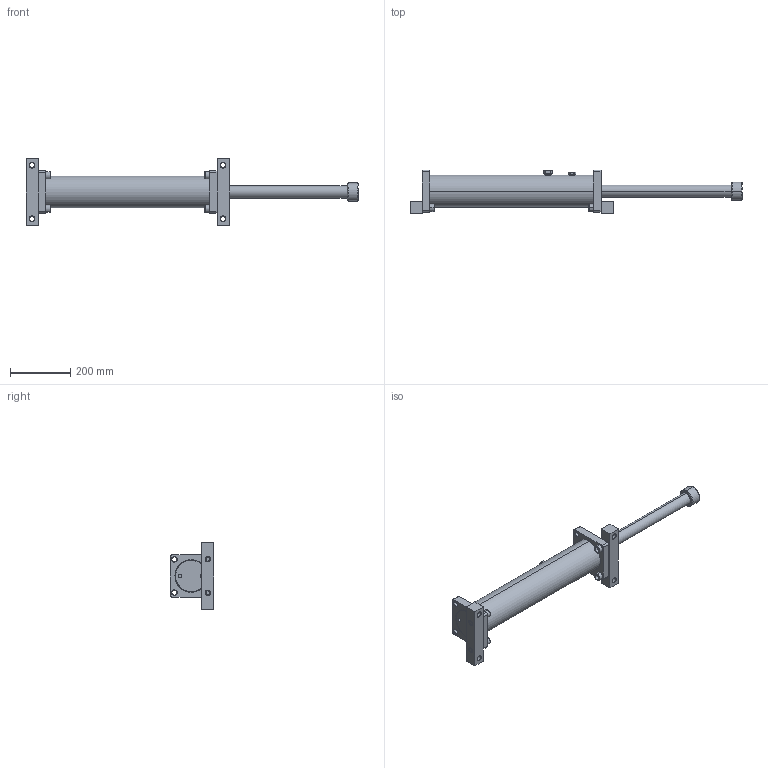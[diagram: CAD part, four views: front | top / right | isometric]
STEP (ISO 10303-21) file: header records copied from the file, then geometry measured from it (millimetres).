
FILE_DESCRIPTION (( 'STEP AP214' ), '1' );
FILE_NAME ('LDD2.0X16.STEP', '2019-01-16T06:10:13', ( 'user' ), ( 'Microsoft' ), 'SwSTEP 2.0', 'SolidWorks 2016', '' );
FILE_SCHEMA (( 'AUTOMOTIVE_DESIGN' ));
Length unit declared in the file: inch
Products named in the file (1): LDD2.0X16
Bounding box: 1102 x 145.5 x 220 mm (x, y, z)
Surface area: 470924.1 mm2 (no closed solid volume)
Topology: 0 solids, 25 shells, 266 faces, 702 edges, 469 vertices
Faces by surface type: plane 99, cylinder 78, cone 59, bspline 30
Entity records: 14173 total; most frequent: CARTESIAN_POINT 7659, DIRECTION 1363, ORIENTED_EDGE 1252, EDGE_CURVE 702, AXIS2_PLACEMENT_3D 530, VERTEX_POINT 469, EDGE_LOOP 325, VECTOR 303
